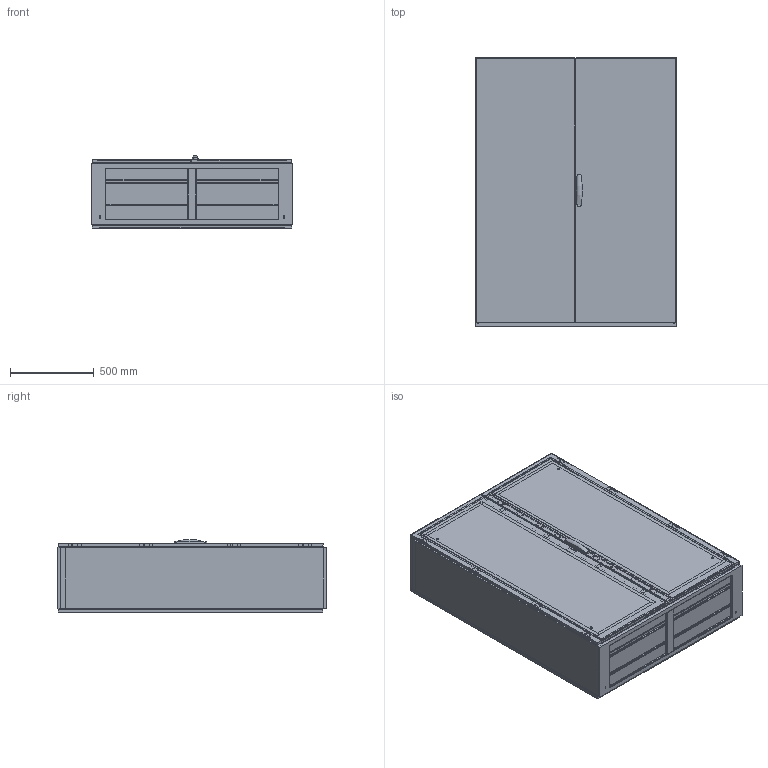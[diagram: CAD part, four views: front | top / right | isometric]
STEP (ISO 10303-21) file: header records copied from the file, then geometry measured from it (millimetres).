
FILE_DESCRIPTION(/* description */ ('STEP AP203'),/* implementation_level */ '2;1');
FILE_NAME(/* name */ 'MKD16124R5(0)',/* time_stamp */ '2024-02-23T09:50:40+01:00',/* author */ ('License CC BY-ND 4.0'),/* organization */ ('CADENAS'),/* preprocessor_version */ 'ST-DEVELOPER v19.3',/* originating_system */ 'PARTsolutions',/* authorisation */ ' ');
FILE_SCHEMA (('CONFIG_CONTROL_DESIGN'));
Length unit declared in the file: millimetre
Products named in the file (25): MKD16124R5(0); MKD16124R5(0)_Frame; CRPK12(0)_Rear Panel Mounting Kit; CRP1612R5(0)_Rear Panel; CRPK12(0)_Rear Panel Bracket; DNMK02(0)_Hinge Right; DN1606RR5(0)_Right door; LSSDXXXX(0)_Lock; LSSD1600(0)_Espagnolette Top; LSSD1600(0)_Espagnolette Bottom; DNMK02(0)_Hinge Left; DN1606LR5(0)_Left door; LSEL1600(0)_Left Door Espagnolette; DNMK01(0)_Rod catches; MPA06(0)_Mounting Plate Brackets 1; MP1612(0)_P1; MPA06(0)_Mounting Plate Brackets 2; MPA06(0)_Mounting Plate Brackets 3; MPA06(0)_Mounting Plate Brackets 4; CCR124R5(0)_MKD Roof plate; Bottom Plate Profile_1200x400(0); CBP120(0)_Bottom Plate 1; CBP120(0)_Bottom Plate 2; LSSD1600(0)_Lock Catch; LSELXX12X(0)_Left Door Espagnolette
Assembly tree (47 placements, depth 2):
  MKD16124R5(0)
    MKD16124R5(0)_Frame
    CRPK12(0)_Rear Panel Mounting Kit  x8
    CRP1612R5(0)_Rear Panel
    CRPK12(0)_Rear Panel Bracket  x2
    DNMK02(0)_Hinge Right  x4
    DN1606RR5(0)_Right door
    LSSDXXXX(0)_Lock
    LSSD1600(0)_Espagnolette Top
    LSSD1600(0)_Espagnolette Bottom
    DNMK02(0)_Hinge Left  x4
    DN1606LR5(0)_Left door
    LSEL1600(0)_Left Door Espagnolette
    DNMK01(0)_Rod catches  x4
    MPA06(0)_Mounting Plate Brackets 1
    MP1612(0)_P1
    MPA06(0)_Mounting Plate Brackets 2
    MPA06(0)_Mounting Plate Brackets 3
    MPA06(0)_Mounting Plate Brackets 4
    CCR124R5(0)_MKD Roof plate
    Bottom Plate Profile_1200x400(0)
    CBP120(0)_Bottom Plate 1  x4
    CBP120(0)_Bottom Plate 2  x2
    LSSD1600(0)_Lock Catch  x2
    LSELXX12X(0)_Left Door Espagnolette  x2
Bounding box: 1200 x 1605 x 434.85 mm (x, y, z)
Volume: 31184184.3 mm3; surface area: 19049515.8 mm2
Topology: 47 solids, 47 shells, 2164 faces, 5813 edges, 3839 vertices
Faces by surface type: plane 1900, cylinder 195, cone 66, sphere 2, torus 1
Full cylindrical faces by diameter (mm): 2.55 x2, 5 x26, 5.2 x2, 5.8 x2, 6 x6, 6.5 x2, 7 x6, 7.4 x4, 8 x22, 9 x2, 10 x12, 12.5 x1, 13 x3, 14 x6, 14.12 x1, 15 x4
Entity records: 48629 total; most frequent: CARTESIAN_POINT 8295, ORIENTED_EDGE 7860, DIRECTION 7453, EDGE_CURVE 3930, LINE 3513, VECTOR 3513, VERTEX_POINT 2662, AXIS2_PLACEMENT_3D 1970
